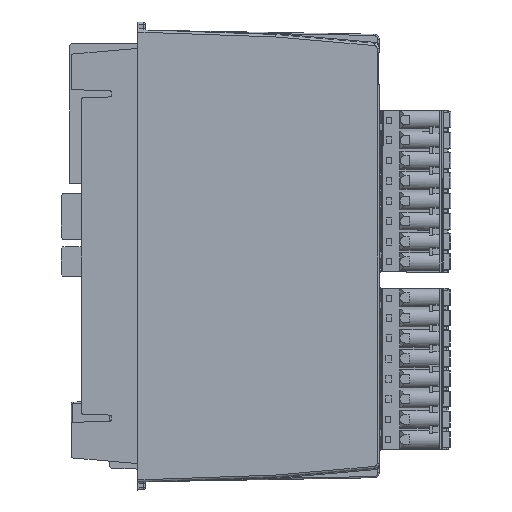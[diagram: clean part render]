
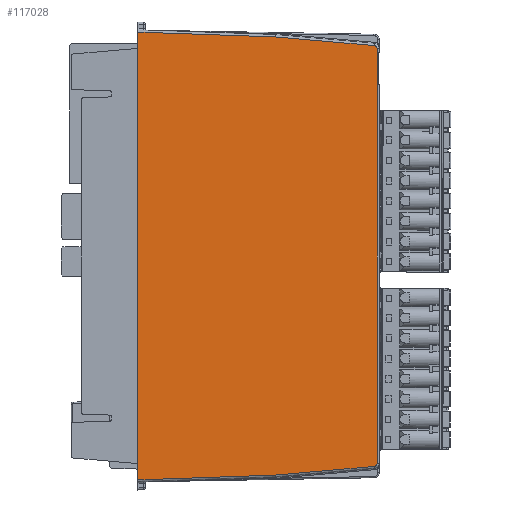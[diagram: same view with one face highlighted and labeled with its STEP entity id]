
A CAD part, left-side view. The second image highlights one B-rep face of the part: STEP entity #117028.
In plain terms, the highlighted planar face has unit normal (-1, -0.018, 0).
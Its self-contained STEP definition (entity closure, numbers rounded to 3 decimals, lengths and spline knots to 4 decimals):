
#2417=ELLIPSE('',#124418,0.0315,0.0315);
#2418=ELLIPSE('',#124419,0.0315,0.0315);
#5124=PLANE('',#124417);
#9696=FACE_OUTER_BOUND('',#15770,.T.);
#15770=EDGE_LOOP('',(#89542,#89543,#89544,#89545,#89546,#89547,#89548,#89549,
#89550,#89551));
#28117=LINE('',#181526,#40401);
#28119=LINE('',#181535,#40403);
#28120=LINE('',#181537,#40404);
#28121=LINE('',#181541,#40405);
#28122=LINE('',#181544,#40406);
#28123=LINE('',#181546,#40407);
#28124=LINE('',#181548,#40408);
#28125=LINE('',#181549,#40409);
#40401=VECTOR('',#143876,39.3701);
#40403=VECTOR('',#143884,39.3701);
#40404=VECTOR('',#143885,39.3701);
#40405=VECTOR('',#143888,39.3701);
#40406=VECTOR('',#143891,39.3701);
#40407=VECTOR('',#143892,39.3701);
#40408=VECTOR('',#143893,39.3701);
#40409=VECTOR('',#143894,39.3701);
#52006=VERTEX_POINT('',#181524);
#52007=VERTEX_POINT('',#181525);
#52010=VERTEX_POINT('',#181533);
#52011=VERTEX_POINT('',#181534);
#52012=VERTEX_POINT('',#181536);
#52013=VERTEX_POINT('',#181538);
#52014=VERTEX_POINT('',#181540);
#52015=VERTEX_POINT('',#181542);
#52016=VERTEX_POINT('',#181545);
#52017=VERTEX_POINT('',#181547);
#65492=EDGE_CURVE('',#52006,#52007,#28117,.T.);
#65496=EDGE_CURVE('',#52010,#52011,#28119,.T.);
#65497=EDGE_CURVE('',#52011,#52012,#28120,.T.);
#65498=EDGE_CURVE('',#52012,#52013,#2417,.T.);
#65499=EDGE_CURVE('',#52013,#52014,#28121,.T.);
#65500=EDGE_CURVE('',#52014,#52015,#2418,.T.);
#65501=EDGE_CURVE('',#52015,#52006,#28122,.T.);
#65502=EDGE_CURVE('',#52007,#52016,#28123,.T.);
#65503=EDGE_CURVE('',#52017,#52016,#28124,.T.);
#65504=EDGE_CURVE('',#52017,#52010,#28125,.T.);
#89542=ORIENTED_EDGE('',*,*,#65496,.T.);
#89543=ORIENTED_EDGE('',*,*,#65497,.T.);
#89544=ORIENTED_EDGE('',*,*,#65498,.T.);
#89545=ORIENTED_EDGE('',*,*,#65499,.T.);
#89546=ORIENTED_EDGE('',*,*,#65500,.T.);
#89547=ORIENTED_EDGE('',*,*,#65501,.T.);
#89548=ORIENTED_EDGE('',*,*,#65492,.T.);
#89549=ORIENTED_EDGE('',*,*,#65502,.T.);
#89550=ORIENTED_EDGE('',*,*,#65503,.F.);
#89551=ORIENTED_EDGE('',*,*,#65504,.T.);
#117028=ADVANCED_FACE('',(#9696),#5124,.T.);
#124417=AXIS2_PLACEMENT_3D('',#181532,#143882,#143883);
#124418=AXIS2_PLACEMENT_3D('',#181539,#143886,#143887);
#124419=AXIS2_PLACEMENT_3D('',#181543,#143889,#143890);
#143876=DIRECTION('',(-0.017,0.999,0.035));
#143882=DIRECTION('center_axis',(-1.,-0.017,
0.));
#143883=DIRECTION('ref_axis',(-0.017,1.,0.));
#143884=DIRECTION('',(0.017,-0.999,0.035));
#143885=DIRECTION('',(0.017,-0.996,0.087));
#143886=DIRECTION('center_axis',(-1.,-0.017,
0.));
#143887=DIRECTION('ref_axis',(0.017,-1.,0.));
#143888=DIRECTION('',(0.,0.,1.));
#143889=DIRECTION('center_axis',(-1.,-0.017,
0.));
#143890=DIRECTION('ref_axis',(0.017,-1.,0.));
#143891=DIRECTION('',(-0.017,0.996,0.087));
#143892=DIRECTION('',(0.,0.,-1.));
#143893=DIRECTION('',(0.,0.,1.));
#143894=DIRECTION('',(0.,0.,-1.));
#181524=CARTESIAN_POINT('',(0.0007,-2.2205,0.0616));
#181525=CARTESIAN_POINT('',(-0.0227,-0.8827,0.1083));
#181526=CARTESIAN_POINT('',(-0.0282,-0.5654,0.1194));
#181532=CARTESIAN_POINT('Origin',(-0.0296,-0.489,
-2.0669));
#181533=CARTESIAN_POINT('',(-0.0227,-0.8827,-4.2421));
#181534=CARTESIAN_POINT('',(0.0007,-2.2205,-4.1954));
#181535=CARTESIAN_POINT('',(-0.0282,-0.5654,-4.2532));
#181536=CARTESIAN_POINT('',(0.0174,-3.1772,-4.1117));
#181537=CARTESIAN_POINT('',(-0.0261,-0.6869,-4.3296));
#181538=CARTESIAN_POINT('',(0.0179,-3.2059,-4.0803));
#181539=CARTESIAN_POINT('Origin',(0.0173,-3.1744,
-4.0803));
#181540=CARTESIAN_POINT('',(0.0179,-3.2059,-0.0535));
#181541=CARTESIAN_POINT('',(0.0179,-3.2059,-0.0535));
#181542=CARTESIAN_POINT('',(0.0174,-3.1772,-0.0221));
#181543=CARTESIAN_POINT('Origin',(0.0173,-3.1744,
-0.0535));
#181544=CARTESIAN_POINT('',(-0.0261,-0.6869,0.1957));
#181545=CARTESIAN_POINT('',(-0.0227,-0.8827,-0.0312));
#181546=CARTESIAN_POINT('',(-0.0227,-0.8827,0.128));
#181547=CARTESIAN_POINT('',(-0.0227,-0.8827,-4.1027));
#181548=CARTESIAN_POINT('',(-0.0227,-0.8827,-7.5932));
#181549=CARTESIAN_POINT('',(-0.0227,-0.8827,0.128));
